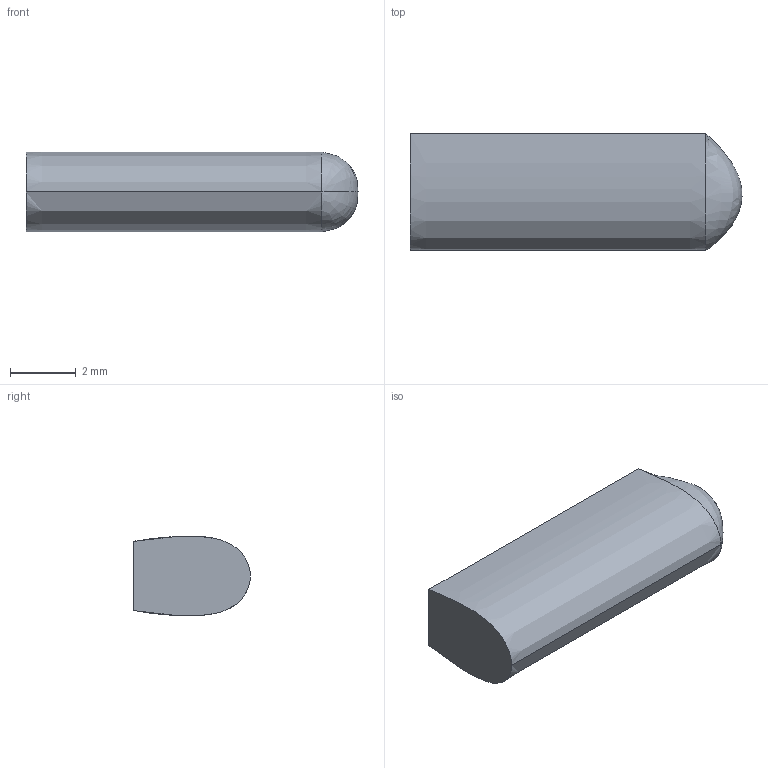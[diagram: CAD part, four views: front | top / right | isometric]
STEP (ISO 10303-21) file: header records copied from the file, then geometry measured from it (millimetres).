
FILE_DESCRIPTION((''),'1');
FILE_NAME('ELEK-ST12-18E','2001-03-29T',('rgoetz'),(''),'PRO/ENGINEER BY PARAMETRIC TECHNOLOGY CORPORATION, 2000350','PRO/ENGINEER BY PARAMETRIC TECHNOLOGY CORPORATION, 2000350','');
FILE_SCHEMA(('CONFIG_CONTROL_DESIGN'));
Length unit declared in the file: millimetre
Products named in the file (1): ELEK-ST12-18E
Bounding box: 10.1 x 3.55 x 2.43 mm (x, y, z)
Volume: 73.3 mm3; surface area: 113.5 mm2
Topology: 1 solids, 1 shells, 6 faces, 13 edges, 7 vertices
Faces by surface type: plane 2, extrusion 2, bspline 2
Entity records: 553 total; most frequent: CARTESIAN_POINT 412, ORIENTED_EDGE 22, EDGE_CURVE 11, DIRECTION 10, B_SPLINE_CURVE_WITH_KNOTS 9, VERTEX_POINT 7, VECTOR 6, EDGE_LOOP 6
